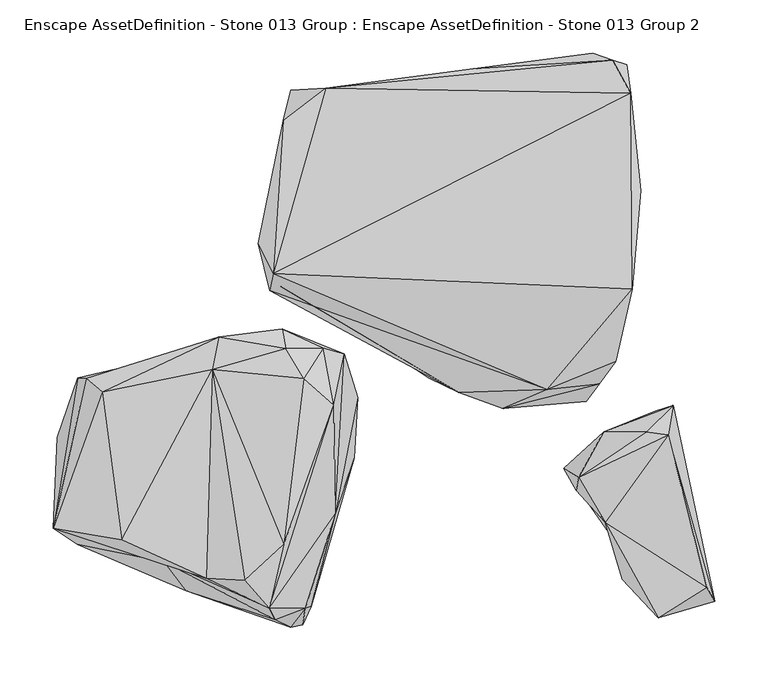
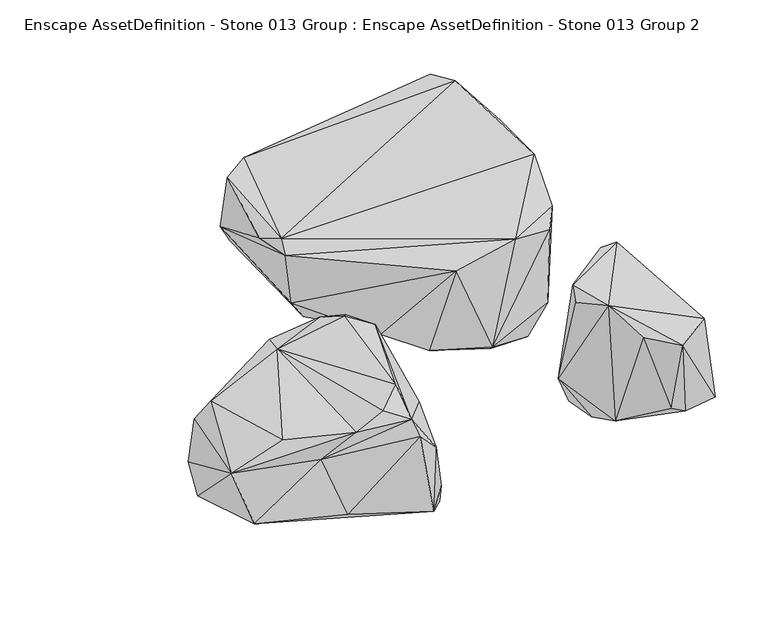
"""IFC4 building model written with IfcOpenShell, lengths in millimetres: geographic element geometry, Enscape AssetDefinition - Stone 013 Group : Enscape AssetDefinition - Stone 013 Group 2."""

from ifc_helpers import new_model, si_unit, origin, place, context, project, spatial, triangles, source, transform, mapped, element, save


def enscape_assetdefinition_stone_013_group_enscape_db9b3e91(model_context):
    return source(origin(), model_context, "Body", "Tessellation", [
        triangles([(-162.8704546, 104.0915751, 137.6174539), (-166.1206015, 88.4690458, 123.6539167), (-65.7311486, 38.1715799, 5.472312), (10.8676597, -7.2038549, 97.525824), (-17.384253, 6.6115298, -15.2200796), (-63.9717993, 70.590109, -7.1146848), (52.3158474, -22.2655968, -17.1625141), (62.4769232, 0.3671942, -36.4420729), (104.67814, -13.0426825, -25.8870191), (102.9309992, 27.5443103, -48.3336686), (-23.420073, 69.6010977, -15.4380918), (-53.861924, 269.547973, -1.9505705), (116.8725083, 300.0820649, -20.926339), (15.8673329, 279.9650697, -3.2915241), (-146.5067551, 275.8160497, 44.6732588), (-155.9185171, 91.8338023, 49.3691386), (-132.9178498, 104.2658559, 14.9434147), (-142.2784249, 260.5159843, 32.2601948), (-113.7125359, 277.6577796, 131.7813457), (-153.2610303, 247.3603738, 135.0338816), (-8.2033817, 277.0678446, 38.2519348), (-7.5300233, 283.6112134, 8.824865), (24.9668309, 295.9412202, 129.1340146), (155.0423896, 303.8129963, 141.9041109), (171.6678646, 273.1660116, 144.8925277), (168.1980001, 300.00171, 101.6337855), (127.2766879, 281.8413541, -25.0570166), (136.5416475, 310.41808, 4.6426502), (166.7322647, 284.7111281, 44.2803005), (181.048433, 182.0940451, 139.2574519), (173.2478372, 89.6781108, 150.0000011), (158.064716, 21.7092127, 121.7847266), (170.3719953, 168.0908482, 33.3699154), (-176.6980445, 132.1085423, 125.9377798), (142.5978094, 0.5574028, 106.3791626), (93.5928155, -4.3998879, 112.7692976), (130.435643, -15.7174715, 15.3340023), (118.0653134, 56.1773168, -51.4485493), (134.9606393, 42.694546, -35.4578012), (111.4948115, 268.5230174, -32.8196333), (-96.0997664, 28.7238758, 21.359309), (-105.9075526, -18.9876355, 68.1987715), (-219.9679506, 14.46128, 53.243834), (-134.1445463, 5.7540643, 75.304297), (-153.0653845, -149.3646202, 78.0513041), (-189.5084908, -183.1339525, 72.5254287), (-304.6684673, -145.3546452, 48.5615117), (-151.0100503, 33.9802115, 62.6939158), (-337.9664712, 5.8130604, -1.5504885), (-213.5005401, 44.9895958, 45.63922), (-322.7721588, -6.5362596, 26.5813989), (-225.5603236, -181.3427283, 53.8405681), (-264.5144139, -166.0483857, 19.2724383), (-166.3179368, -209.1915008, 68.6795515), (-368.4734027, -134.5419149, 16.1077207), (-144.638219, 13.705192, -63.9131455), (-86.9297502, -68.5381675, -78.6019337), (-345.6371876, 6.1978849, -60.5643219), (-127.1709077, -207.6277881, -63.8307559), (-364.7377295, -49.0951819, -69.3644389), (-146.3704443, -227.2498099, -59.8065375), (-345.9681267, -149.5056727, -55.4907354), (-243.9305323, -192.8064363, -51.2142613), (-135.1888322, -224.7909665, -28.0834057), (-104.8893735, -120.8068884, 18.1837409), (-132.5916706, -209.4762945, 16.3572637), (-160.8049376, -220.3012333, 48.9609241), (-116.009961, 34.5864381, 53.9015973), (-91.0075355, 8.4088481, -49.5769793), (-83.8240168, -11.893971, -60.3947919), (-154.1052557, 52.2497268, 46.043029), (-189.8868652, 42.8908595, -44.0883927), (187.7796355, -207.7203697, -40.6493765), (197.4630016, -218.1706402, 52.5152084), (164.1419068, -182.2361331, 54.2558998), (151.5657668, -138.9594323, -87.8651946), (205.9020032, -209.7885756, -49.3406611), (250.3637152, -202.6274211, -49.4338967), (243.030678, -189.5030587, 58.2987716), (147.8151509, -128.6701984, 73.6568458), (206.7652499, -46.8693003, 94.4139954), (211.5136701, -19.1212211, -17.5063124), (186.4739376, -44.0297343, 91.911105), (146.6148971, -44.224013, 17.3344116), (123.3267201, -86.6717264, 86.0597361), (195.3052481, -24.413835, -61.3692374), (108.981402, -78.2289732, -48.7700291), (125.7475571, -73.6846466, -89.7608365), (141.2955088, -52.4185846, -87.1745391), (139.4873252, -104.3811287, -99.0200279), (203.3763943, -97.7299358, -93.2154494), (120.6990644, -99.0881832, 69.2145797)], [[80, 92, 87], [76, 80, 87], [87, 88, 90], [87, 90, 76], [90, 91, 76], [89, 90, 88], [87, 89, 88], [89, 91, 90], [86, 91, 89], [84, 89, 87], [84, 86, 89], [85, 87, 92], [85, 92, 80], [87, 85, 84], [85, 83, 84], [84, 82, 86], [86, 82, 91], [84, 83, 82], [81, 82, 83], [83, 85, 81], [85, 80, 81], [80, 79, 81], [91, 82, 78], [78, 81, 79], [81, 78, 82], [76, 91, 77], [77, 91, 78], [77, 73, 76], [76, 75, 80], [75, 76, 73], [74, 80, 75], [77, 74, 73], [74, 79, 80], [78, 79, 74], [78, 74, 77], [74, 75, 73], [69, 56, 72], [71, 69, 72], [70, 56, 69], [41, 70, 69], [41, 71, 68], [69, 71, 41], [53, 67, 54], [63, 67, 53], [67, 63, 61], [61, 64, 66], [67, 66, 54], [67, 61, 66], [65, 54, 66], [65, 70, 41], [70, 57, 56], [70, 65, 57], [64, 61, 59], [66, 64, 59], [65, 59, 57], [65, 66, 59], [62, 61, 63], [53, 62, 63], [59, 61, 62], [60, 59, 62], [59, 60, 57], [72, 56, 58], [58, 57, 60], [56, 57, 58], [49, 72, 58], [58, 60, 55], [55, 62, 53], [60, 62, 55], [58, 55, 49], [54, 52, 53], [53, 52, 55], [55, 52, 47], [49, 55, 51], [51, 55, 47], [49, 51, 50], [72, 50, 71], [50, 72, 49], [71, 50, 48], [68, 71, 48], [51, 43, 50], [48, 50, 43], [47, 52, 43], [47, 43, 51], [54, 46, 52], [43, 52, 46], [54, 45, 46], [43, 46, 45], [68, 48, 44], [44, 48, 43], [44, 43, 45], [65, 42, 54], [65, 41, 42], [54, 42, 45], [42, 41, 68], [68, 44, 42], [42, 44, 45], [27, 40, 13], [38, 40, 27], [40, 38, 10], [39, 38, 27], [38, 39, 10], [10, 37, 9], [39, 37, 10], [37, 32, 35], [35, 32, 36], [20, 34, 1], [19, 20, 1], [32, 31, 36], [36, 31, 1], [32, 33, 31], [33, 37, 39], [33, 39, 27], [33, 32, 37], [33, 30, 31], [30, 25, 31], [25, 1, 31], [1, 25, 19], [25, 30, 26], [27, 29, 33], [33, 29, 30], [29, 26, 30], [27, 13, 28], [27, 28, 29], [22, 28, 13], [26, 24, 25], [25, 24, 19], [24, 26, 29], [28, 24, 29], [23, 19, 24], [23, 28, 22], [23, 24, 28], [22, 21, 23], [21, 19, 23], [15, 21, 22], [15, 20, 19], [15, 34, 20], [15, 19, 21], [17, 15, 18], [6, 16, 17], [16, 15, 17], [18, 15, 12], [12, 15, 22], [17, 12, 6], [12, 17, 18], [22, 14, 12], [22, 13, 14], [13, 40, 14], [14, 40, 10], [12, 11, 6], [12, 14, 11], [11, 14, 10], [10, 8, 11], [8, 10, 9], [37, 7, 9], [9, 7, 8], [35, 7, 37], [7, 35, 36], [7, 5, 8], [8, 5, 11], [6, 11, 3], [5, 3, 11], [16, 6, 3], [5, 4, 3], [4, 7, 36], [4, 5, 7], [3, 4, 16], [2, 1, 34], [4, 36, 2], [2, 34, 15], [36, 1, 2], [16, 4, 2], [2, 15, 16]]),
    ])


if __name__ == "__main__":
    model = new_model("IFC4")
    model_context = context("Model", 3, world=origin())
    ifc_project = project(units=[si_unit("LENGTHUNIT", "METRE", prefix="MILLI")], contexts=[model_context])
    site = spatial("IfcSite", under=ifc_project)
    building = spatial("IfcBuilding", under=site)
    placement = place(None, origin())
    enscape_assetdefinition_stone_013_group_enscape_shape = enscape_assetdefinition_stone_013_group_enscape_db9b3e91(model_context)
    element("IfcGeographicElement", 1, ObjectType="Enscape AssetDefinition - Stone 013 Group : Enscape AssetDefinition - Stone 013 Group 2", at=placement, inside=building, context=model_context, shape_type="MappedRepresentation", body=[
        mapped(enscape_assetdefinition_stone_013_group_enscape_shape, transform((0.0, 0.0, 0.0), x_axis=(1.0, 0.0, 0.0), y_axis=(0.0, 1.0, 0.0), z_axis=(0.0, 0.0, 1.0))),
    ])
    save(model, "model.ifc")
